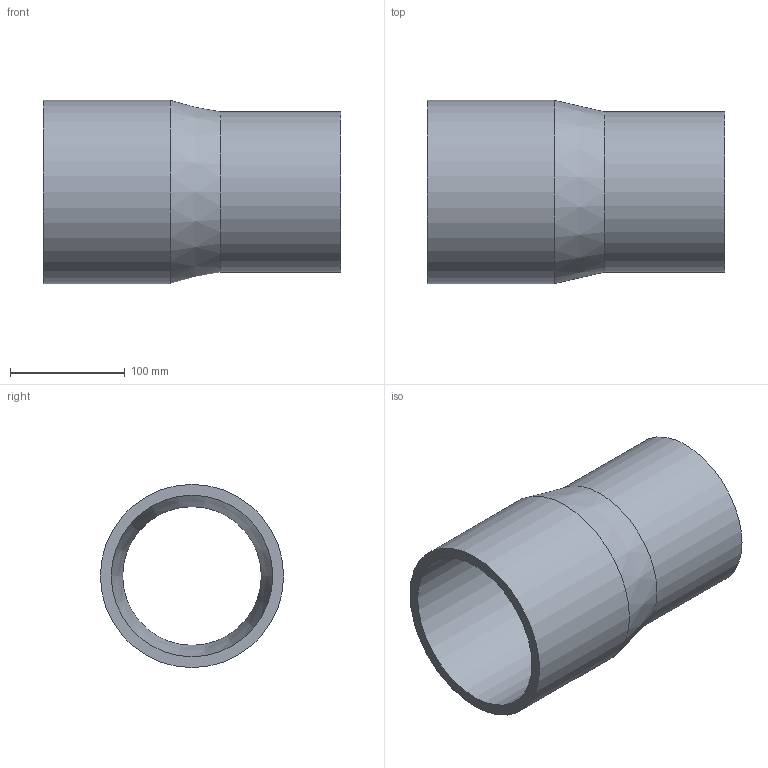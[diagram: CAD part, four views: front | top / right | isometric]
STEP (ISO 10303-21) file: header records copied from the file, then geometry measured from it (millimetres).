
FILE_DESCRIPTION(('Beschreibung'),'1');
FILE_NAME('V:/Ziel/25.91.03.063_SDR_17_PE100_160_140.STP', '2014-09-15T06:01:58',('Author'), ('Organization'), 'KCM Version 1.1.794.0', 'Kubotek KeyCreator', 'Authorization');
FILE_SCHEMA(('CONFIG_CONTROL_DESIGN'));
Length unit declared in the file: millimetre
Bounding box: 260 x 160 x 160 mm (x, y, z)
Volume: 1096420.2 mm3; surface area: 239211.8 mm2
Topology: 1 solids, 1 shells, 8 faces, 22 edges, 24 vertices
Faces by surface type: cylinder 4, cone 2, plane 2
Full cylindrical faces by diameter (mm): 121 x1, 140 x1, 141 x1, 160 x1
Entity records: 321 total; most frequent: DIRECTION 48, CARTESIAN_POINT 39, ORIENTED_EDGE 28, AXIS2_PLACEMENT_3D 17, EDGE_CURVE 14, VECTOR 14, LINE 14, EDGE_LOOP 10
